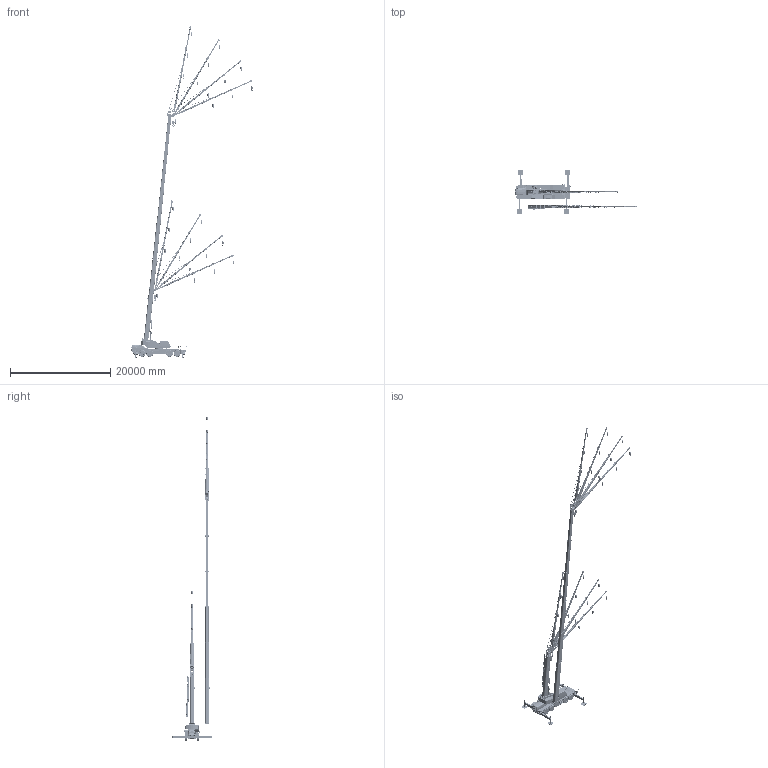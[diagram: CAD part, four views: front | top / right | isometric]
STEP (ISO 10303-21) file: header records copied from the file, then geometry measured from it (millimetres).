
FILE_DESCRIPTION(('CATIA V5 STEP Exchange','CAx-IF Rec.Pracs.--- Model Styling and Organization---1.4--- 2014-01-23'),'2;1');
FILE_NAME('\\Iba001\cad\CR\HP用CADデータ\18A\STP\SL-750Rf2 3D.stp','2021-03-04T03:00:18+00:00',('none'),('none'),'CATIA Version 5-6 Release 2017 SP5 HF78','CATIA V5 STEP AP214','none');
FILE_SCHEMA(('AUTOMOTIVE_DESIGN { 1 0 10303 214 1 1 1 1 }'));
Products named in the file (50): SL-750Rf2 3D; SL-750Rf2 UPPER; SL-750Rf2 UPPER STRUCTURE; SL-750Rf2 TABLE; SL-750Rf2 CAB; SL-750Rf2 MACHINE ROOM; SL-750Rf2 DERRICK CYLINDER-1; SL-750Rf2 DERRICK CYLINDER-2; SL-750Rf2 BOOM JIB Min; SL-750Rf2 BOOM Min; SL-750Rf2 BOOM1; SL-750Rf2 BOOM2; SL-750Rf2 BOOM3; SL-750Rf2 BOOM4; SL-750Rf2 BOOM5; SL-750Rf2 BOOM6; SL-750Rf2 JIB; SL-750Rf2 JIB 9.52m 5deg; SL-750Rf2 JIB1; SL-750Rf2 JIB2; SL-750Rf2 JIB3; SL-750Rf2 JIB4; SL-750Rf2 JIB TENSION ROD; SL-750Rf2 JIB 9.52m 25deg; SL-750Rf2 JIB 9.52m 45deg; SL-750Rf2 JIB 9.52m 60deg; SL-750Rf2 JIB 13.8m 5deg; SL-750Rf2 JIB 13.8m 25deg; SL-750Rf2 JIB 13.8m 45deg; SL-750Rf2 JIB 13.8m 60deg; SL-750Rf2 JIB 18.0m 5deg; SL-750Rf2 JIB 18.0m 25deg; SL-750Rf2 JIB 18.0m 45deg; SL-750Rf2 JIB 18.0m 60deg; SL-750Rf2 JIB Stowed; SL-750Rf2 JIB TENSION ROD Stowed; SL-750Rf2 HOOK 5.6t; SL-750Rf2 HOOK 35t; SL-750Rf2 BOOM JIB Max; SL-750Rf2 BOOM Max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
Assembly tree (150 placements, depth 6):
  SL-750Rf2 3D
    SL-750Rf2 UPPER
      SL-750Rf2 UPPER STRUCTURE
        SL-750Rf2 TABLE
        SL-750Rf2 CAB
        SL-750Rf2 MACHINE ROOM
        SL-750Rf2 DERRICK CYLINDER-1
        SL-750Rf2 DERRICK CYLINDER-2
      SL-750Rf2 BOOM JIB Min
        SL-750Rf2 BOOM Min
          SL-750Rf2 BOOM1
          SL-750Rf2 BOOM2
          SL-750Rf2 BOOM3
          SL-750Rf2 BOOM4
          SL-750Rf2 BOOM5
          SL-750Rf2 BOOM6
        SL-750Rf2 JIB
          SL-750Rf2 JIB 9.52m 5deg
            SL-750Rf2 JIB1
            SL-750Rf2 JIB2
            SL-750Rf2 JIB3
            SL-750Rf2 JIB4
            SL-750Rf2 JIB TENSION ROD
          SL-750Rf2 JIB 9.52m 25deg
            SL-750Rf2 JIB1
            SL-750Rf2 JIB2
            SL-750Rf2 JIB3
            SL-750Rf2 JIB4
            SL-750Rf2 JIB TENSION ROD
          SL-750Rf2 JIB 9.52m 45deg
            SL-750Rf2 JIB1
            SL-750Rf2 JIB2
            SL-750Rf2 JIB3
            SL-750Rf2 JIB4
            SL-750Rf2 JIB TENSION ROD
          SL-750Rf2 JIB 9.52m 60deg
            SL-750Rf2 JIB1
            SL-750Rf2 JIB2
            SL-750Rf2 JIB3
            SL-750Rf2 JIB4
            SL-750Rf2 JIB TENSION ROD
          SL-750Rf2 JIB 13.8m 5deg
            SL-750Rf2 JIB1
            SL-750Rf2 JIB2
            SL-750Rf2 JIB3
            SL-750Rf2 JIB4
            SL-750Rf2 JIB TENSION ROD
          SL-750Rf2 JIB 13.8m 25deg
            SL-750Rf2 JIB1
            SL-750Rf2 JIB2
            SL-750Rf2 JIB3
            SL-750Rf2 JIB4
            SL-750Rf2 JIB TENSION ROD
          SL-750Rf2 JIB 13.8m 45deg
            SL-750Rf2 JIB1
            SL-750Rf2 JIB2
            SL-750Rf2 JIB3
            SL-750Rf2 JIB4
            SL-750Rf2 JIB TENSION ROD
          SL-750Rf2 JIB 13.8m 60deg
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Bounding box: 24176.47 x 8600 x 66258.94 mm (x, y, z)
Volume: 119992873453 mm3; surface area: 1347978460.2 mm2
Topology: 472 solids, 480 shells, 28735 faces, 77611 edges, 50581 vertices
Faces by surface type: plane 18414, cylinder 6599, extrusion 1925, torus 1182, bspline 419, cone 170, sphere 24, revolution 2
Entity records: 180844 total; most frequent: CARTESIAN_POINT 73817, ORIENTED_EDGE 24580, DIRECTION 16615, EDGE_CURVE 12290, VERTEX_POINT 8002, VECTOR 7949, LINE 7538, AXIS2_PLACEMENT_3D 5464
